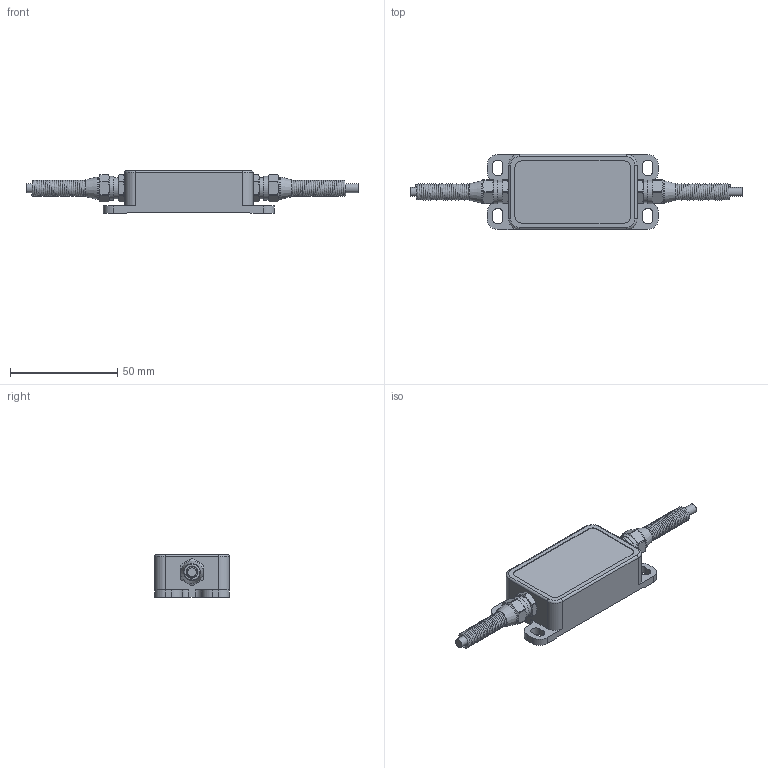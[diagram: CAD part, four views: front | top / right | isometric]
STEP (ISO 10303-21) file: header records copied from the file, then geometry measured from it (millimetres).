
FILE_DESCRIPTION(/* description */ (''),/* implementation_level */ '2;1');
FILE_NAME(/* name */ '倾角模块.stp',/* time_stamp */ '2022-04-11T16:55:24+08:00',/* author */ (''),/* organization */ (''),/* preprocessor_version */ 'ST-DEVELOPER v16',/* originating_system */ 'SIEMENS PLM Software NX 10.0',/* authorisation */ '');
FILE_SCHEMA (('AUTOMOTIVE_DESIGN { 1 0 10303 214 3 1 1 1 }'));
Length unit declared in the file: millimetre
Products named in the file (1): Admi330023B8633e
Bounding box: 155 x 35 x 20 mm (x, y, z)
Volume: 28375.1 mm3; surface area: 28856.2 mm2
Topology: 12 solids, 12 shells, 328 faces, 866 edges, 576 vertices
Faces by surface type: plane 166, cylinder 134, cone 16, bspline 6, torus 6
Full cylindrical faces by diameter (mm): 2.2 x2, 2.5 x8, 3.2 x4, 4.2 x1, 4.5 x1, 5 x4, 6.8 x2, 7.6 x4, 10 x4, 10.5 x2, 11 x2
Entity records: 24094 total; most frequent: CARTESIAN_POINT 15889, ORIENTED_EDGE 1576, DIRECTION 1549, EDGE_CURVE 788, AXIS2_PLACEMENT_3D 560, VERTEX_POINT 550, LINE 429, VECTOR 429
